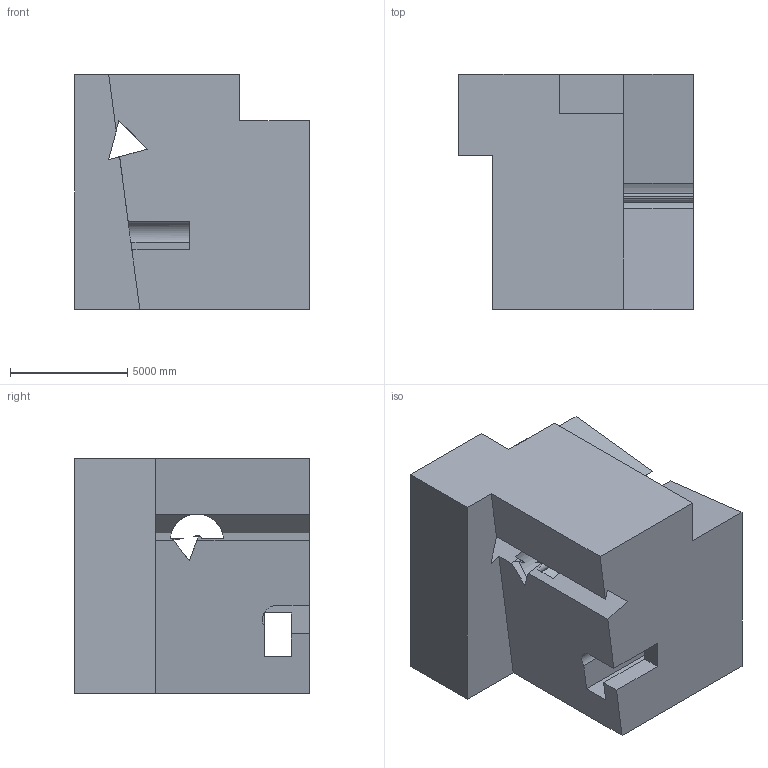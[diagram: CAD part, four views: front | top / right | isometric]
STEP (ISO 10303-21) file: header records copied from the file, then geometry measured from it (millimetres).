
FILE_DESCRIPTION (( 'STEP AP203' ), '1' );
FILE_NAME ('1926.STEP', '2022-08-23T09:33:40', ( 'user' ), ( '' ), 'SwSTEP 2.0', 'SolidWorks 2021', '' );
FILE_SCHEMA (( 'CONFIG_CONTROL_DESIGN' ));
Length unit declared in the file: centimetre
Products named in the file (1): 1926
Bounding box: 10000 x 10000 x 10000 mm (x, y, z)
Volume: 708289219837.3 mm3; surface area: 729687941.8 mm2
Topology: 1 solids, 1 shells, 51 faces, 148 edges, 98 vertices
Faces by surface type: plane 41, cylinder 10
Entity records: 1758 total; most frequent: CARTESIAN_POINT 319, ORIENTED_EDGE 296, DIRECTION 268, EDGE_CURVE 148, LINE 118, VECTOR 118, VERTEX_POINT 98, AXIS2_PLACEMENT_3D 75
